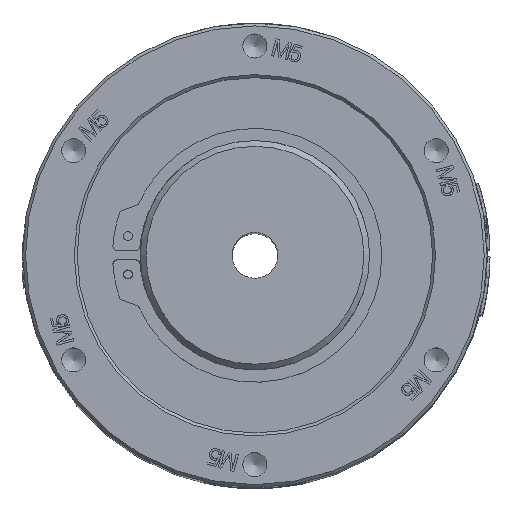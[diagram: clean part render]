
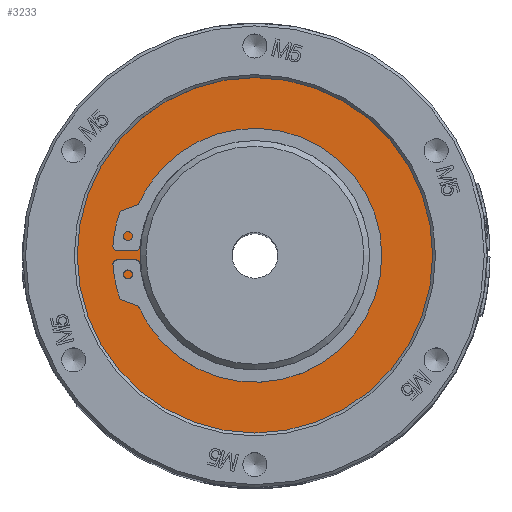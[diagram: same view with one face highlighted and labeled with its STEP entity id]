
A CAD part, top view. The second image highlights one B-rep face of the part: STEP entity #3233.
In plain terms, the highlighted planar face has unit normal (0, 0, 1).
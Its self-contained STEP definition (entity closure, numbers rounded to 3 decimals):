
#411=CIRCLE('',#39990,31.);
#451=CIRCLE('',#40057,18.75);
#790=FACE_BOUND('',#8456,.T.);
#791=FACE_BOUND('',#8457,.T.);
#3233=ADVANCED_FACE('',(#790,#791),#4771,.T.);
#4771=PLANE('',#40059);
#8456=EDGE_LOOP('',(#19357));
#8457=EDGE_LOOP('',(#19358));
#19357=ORIENTED_EDGE('',*,*,#32234,.T.);
#19358=ORIENTED_EDGE('',*,*,#32162,.F.);
#27251=VERTEX_POINT('',#69840);
#27301=VERTEX_POINT('',#70049);
#32162=EDGE_CURVE('',#27251,#27251,#411,.T.);
#32234=EDGE_CURVE('',#27301,#27301,#451,.T.);
#39990=AXIS2_PLACEMENT_3D('',#69839,#43728,#43729);
#40057=AXIS2_PLACEMENT_3D('',#70048,#43890,#43891);
#40059=AXIS2_PLACEMENT_3D('',#70051,#43894,#43895);
#43728=DIRECTION('',(0.,0.,-1.));
#43729=DIRECTION('',(1.,0.,0.));
#43890=DIRECTION('',(0.,0.,-1.));
#43891=DIRECTION('',(1.,0.,0.));
#43894=DIRECTION('',(0.,0.,1.));
#43895=DIRECTION('',(1.,0.,0.));
#69839=CARTESIAN_POINT('',(0.,0.,142.));
#69840=CARTESIAN_POINT('',(31.,0.,142.));
#70048=CARTESIAN_POINT('',(0.,0.,142.));
#70049=CARTESIAN_POINT('',(18.75,0.,142.));
#70051=CARTESIAN_POINT('',(0.,0.,142.));
